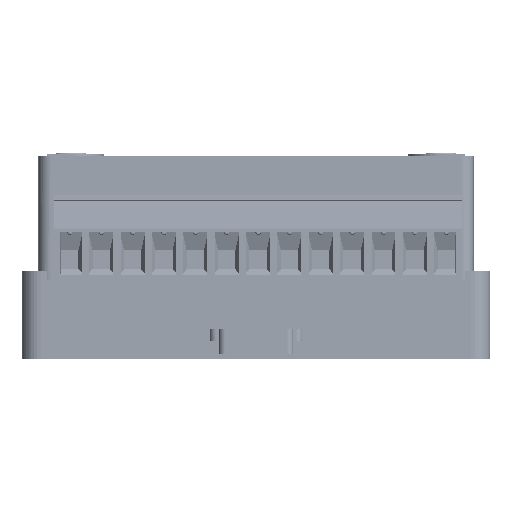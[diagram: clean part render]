
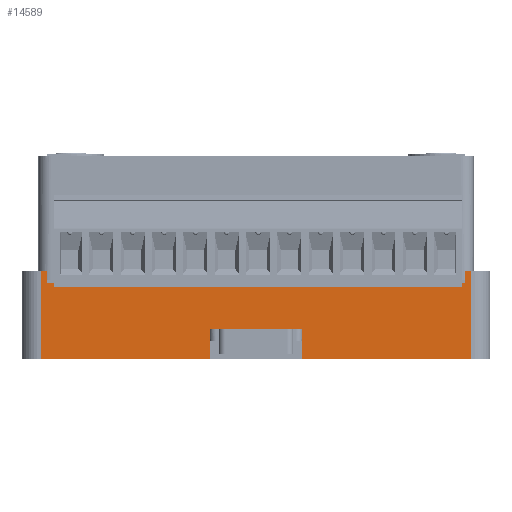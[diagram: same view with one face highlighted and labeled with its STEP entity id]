
A CAD part, front view. The second image highlights one B-rep face of the part: STEP entity #14589.
In plain terms, the highlighted planar face has unit normal (0, -1, 0).
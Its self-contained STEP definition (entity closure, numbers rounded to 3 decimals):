
#14589=ADVANCED_FACE('',(#85975),#85977,.F.);
#85975=FACE_BOUND('',#85976,.T.);
#85976=EDGE_LOOP('',(#138612,#138613,#138614,#138615,#138616,#138617,#138618,#138619,
#138620,#138621,#138622,#138623,#138624,#138625,#138626,#138627));
#85977=PLANE('',#85978);
#85978=AXIS2_PLACEMENT_3D('',#85979,#85980,#85981);
#85979=CARTESIAN_POINT('',(-37.9,-51.95,14.4));
#85980=DIRECTION('',(0.,1.,0.));
#85981=DIRECTION('',(0.,0.,1.));
#138612=ORIENTED_EDGE('',*,*,#192984,.F.);
#138613=ORIENTED_EDGE('',*,*,#192985,.F.);
#138614=ORIENTED_EDGE('',*,*,#192986,.T.);
#138615=ORIENTED_EDGE('',*,*,#192987,.T.);
#138616=ORIENTED_EDGE('',*,*,#192988,.T.);
#138617=ORIENTED_EDGE('',*,*,#192387,.F.);
#138618=ORIENTED_EDGE('',*,*,#192419,.T.);
#138619=ORIENTED_EDGE('',*,*,#192417,.F.);
#138620=ORIENTED_EDGE('',*,*,#192416,.T.);
#138621=ORIENTED_EDGE('',*,*,#192403,.F.);
#138622=ORIENTED_EDGE('',*,*,#192989,.T.);
#138623=ORIENTED_EDGE('',*,*,#192990,.T.);
#138624=ORIENTED_EDGE('',*,*,#192991,.F.);
#138625=ORIENTED_EDGE('',*,*,#192992,.F.);
#138626=ORIENTED_EDGE('',*,*,#192993,.F.);
#138627=ORIENTED_EDGE('',*,*,#192423,.F.);
#192387=EDGE_CURVE('',#217064,#217066,#217067,.T.);
#192403=EDGE_CURVE('',#217093,#217085,#217095,.T.);
#192416=EDGE_CURVE('',#217113,#217085,#217115,.T.);
#192417=EDGE_CURVE('',#217113,#217116,#217117,.T.);
#192419=EDGE_CURVE('',#217064,#217116,#217119,.T.);
#192423=EDGE_CURVE('',#217123,#217125,#217126,.T.);
#192984=EDGE_CURVE('',#218036,#217123,#218037,.T.);
#192985=EDGE_CURVE('',#218038,#218036,#218039,.T.);
#192986=EDGE_CURVE('',#218038,#218040,#218041,.T.);
#192987=EDGE_CURVE('',#218040,#218042,#218043,.T.);
#192988=EDGE_CURVE('',#218042,#217066,#218044,.T.);
#192989=EDGE_CURVE('',#217093,#218045,#218046,.T.);
#192990=EDGE_CURVE('',#218045,#218047,#218048,.T.);
#192991=EDGE_CURVE('',#218049,#218047,#218050,.T.);
#192992=EDGE_CURVE('',#218051,#218049,#218052,.T.);
#192993=EDGE_CURVE('',#217125,#218051,#218053,.T.);
#217064=VERTEX_POINT('',#271757);
#217066=VERTEX_POINT('',#271761);
#217067=LINE('',#271762,#271763);
#217085=VERTEX_POINT('',#271804);
#217093=VERTEX_POINT('',#271821);
#217095=LINE('',#271826,#271827);
#217113=VERTEX_POINT('',#271868);
#217115=LINE('',#271872,#271873);
#217116=VERTEX_POINT('',#271875);
#217117=LINE('',#271876,#271877);
#217119=LINE('',#271882,#271883);
#217123=VERTEX_POINT('',#271892);
#217125=VERTEX_POINT('',#271896);
#217126=LINE('',#271897,#271898);
#218036=VERTEX_POINT('',#277864);
#218037=LINE('',#277865,#277866);
#218038=VERTEX_POINT('',#277868);
#218039=LINE('',#277869,#277870);
#218040=VERTEX_POINT('',#277872);
#218041=LINE('',#277873,#277874);
#218042=VERTEX_POINT('',#277876);
#218043=LINE('',#277877,#277878);
#218044=LINE('',#277880,#277881);
#218045=VERTEX_POINT('',#277883);
#218046=LINE('',#277884,#277885);
#218047=VERTEX_POINT('',#277887);
#218048=LINE('',#277888,#277889);
#218049=VERTEX_POINT('',#277891);
#218050=LINE('',#277892,#277893);
#218051=VERTEX_POINT('',#277895);
#218052=LINE('',#277896,#277897);
#218053=LINE('',#277899,#277900);
#271757=CARTESIAN_POINT('',(33.85,-51.95,14.4));
#271761=CARTESIAN_POINT('',(34.9,-51.95,14.4));
#271762=CARTESIAN_POINT('',(33.85,-51.95,14.4));
#271763=VECTOR('',#271764,1.);
#271764=DIRECTION('',(1.,0.,0.));
#271804=CARTESIAN_POINT('',(-33.85,-51.95,14.4));
#271821=CARTESIAN_POINT('',(-34.9,-51.95,14.4));
#271826=CARTESIAN_POINT('',(-34.9,-51.95,14.4));
#271827=VECTOR('',#271828,1.);
#271828=DIRECTION('',(1.,0.,0.));
#271868=CARTESIAN_POINT('',(-33.85,-51.95,12.4));
#271872=CARTESIAN_POINT('',(-33.85,-51.95,12.4));
#271873=VECTOR('',#271874,1.);
#271874=DIRECTION('',(0.,0.,1.));
#271875=CARTESIAN_POINT('',(33.85,-51.95,12.4));
#271876=CARTESIAN_POINT('',(-33.85,-51.95,12.4));
#271877=VECTOR('',#271878,1.);
#271878=DIRECTION('',(1.,0.,0.));
#271882=CARTESIAN_POINT('',(33.85,-51.95,14.4));
#271883=VECTOR('',#271884,1.);
#271884=DIRECTION('',(0.,0.,-1.));
#271892=CARTESIAN_POINT('',(4.,-51.95,5.));
#271896=CARTESIAN_POINT('',(-4.,-51.95,5.));
#271897=CARTESIAN_POINT('',(4.,-51.95,5.));
#271898=VECTOR('',#271899,1.);
#271899=DIRECTION('',(-1.,0.,0.));
#277864=CARTESIAN_POINT('',(6.936,-51.95,5.));
#277865=CARTESIAN_POINT('',(6.936,-51.95,5.));
#277866=VECTOR('',#277867,1.);
#277867=DIRECTION('',(-1.,0.,0.));
#277868=CARTESIAN_POINT('',(7.5,-51.95,5.));
#277869=CARTESIAN_POINT('',(7.5,-51.95,5.));
#277870=VECTOR('',#277871,1.);
#277871=DIRECTION('',(-1.,0.,0.));
#277872=CARTESIAN_POINT('',(7.5,-51.95,0.));
#277873=CARTESIAN_POINT('',(7.5,-51.95,5.));
#277874=VECTOR('',#277875,1.);
#277875=DIRECTION('',(0.,0.,-1.));
#277876=CARTESIAN_POINT('',(34.9,-51.95,0.));
#277877=CARTESIAN_POINT('',(7.5,-51.95,0.));
#277878=VECTOR('',#277879,1.);
#277879=DIRECTION('',(1.,0.,0.));
#277880=CARTESIAN_POINT('',(34.9,-51.95,0.));
#277881=VECTOR('',#277882,1.);
#277882=DIRECTION('',(0.,0.,1.));
#277883=CARTESIAN_POINT('',(-34.9,-51.95,0.));
#277884=CARTESIAN_POINT('',(-34.9,-51.95,14.4));
#277885=VECTOR('',#277886,1.);
#277886=DIRECTION('',(0.,0.,-1.));
#277887=CARTESIAN_POINT('',(-7.5,-51.95,0.));
#277888=CARTESIAN_POINT('',(-34.9,-51.95,0.));
#277889=VECTOR('',#277890,1.);
#277890=DIRECTION('',(1.,0.,0.));
#277891=CARTESIAN_POINT('',(-7.5,-51.95,5.));
#277892=CARTESIAN_POINT('',(-7.5,-51.95,5.));
#277893=VECTOR('',#277894,1.);
#277894=DIRECTION('',(0.,0.,-1.));
#277895=CARTESIAN_POINT('',(-6.936,-51.95,5.));
#277896=CARTESIAN_POINT('',(-6.936,-51.95,5.));
#277897=VECTOR('',#277898,1.);
#277898=DIRECTION('',(-1.,0.,0.));
#277899=CARTESIAN_POINT('',(-4.,-51.95,5.));
#277900=VECTOR('',#277901,1.);
#277901=DIRECTION('',(-1.,0.,0.));
